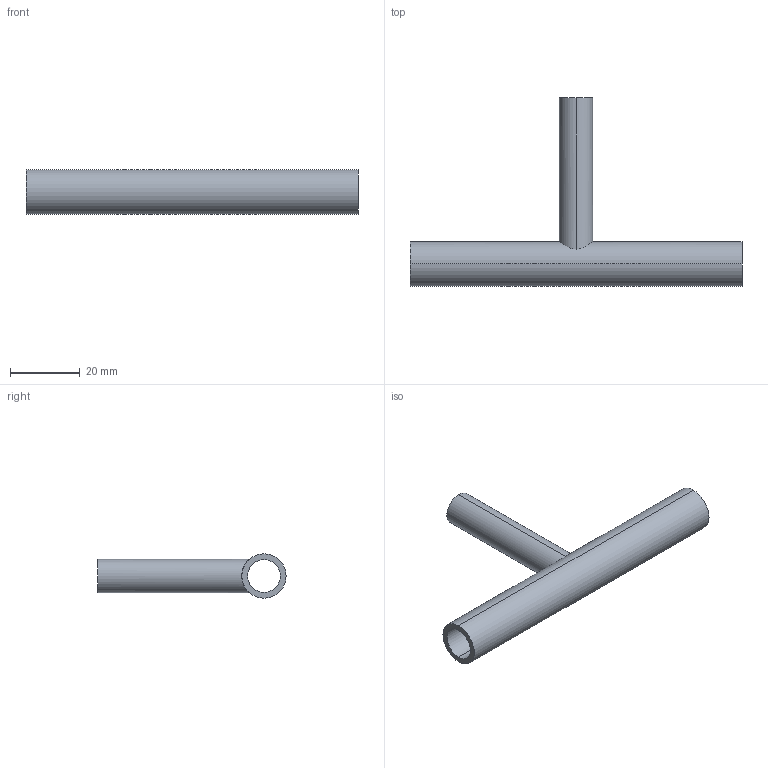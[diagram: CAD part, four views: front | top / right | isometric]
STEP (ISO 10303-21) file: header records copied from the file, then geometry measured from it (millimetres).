
FILE_DESCRIPTION (( 'STEP AP214' ), '1' );
FILE_NAME ('TE7RWWW6L.5x.375-...STEP', '2016-05-24T03:59:33', ( 'eran' ), ( '' ), 'SwSTEP 2.0', 'SolidWorks 2016', '' );
FILE_SCHEMA (( 'AUTOMOTIVE_DESIGN' ));
Length unit declared in the file: millimetre
Products named in the file (1): TE7RWWW6L.5x.375-..
Bounding box: 95.2 x 53.95 x 12.7 mm (x, y, z)
Volume: 6385.4 mm3; surface area: 8950.8 mm2
Topology: 1 solids, 1 shells, 11 faces, 24 edges, 16 vertices
Faces by surface type: cylinder 8, plane 3
Entity records: 496 total; most frequent: CARTESIAN_POINT 204, DIRECTION 56, ORIENTED_EDGE 48, AXIS2_PLACEMENT_3D 24, EDGE_CURVE 24, EDGE_LOOP 16, VERTEX_POINT 16, CIRCLE 12
